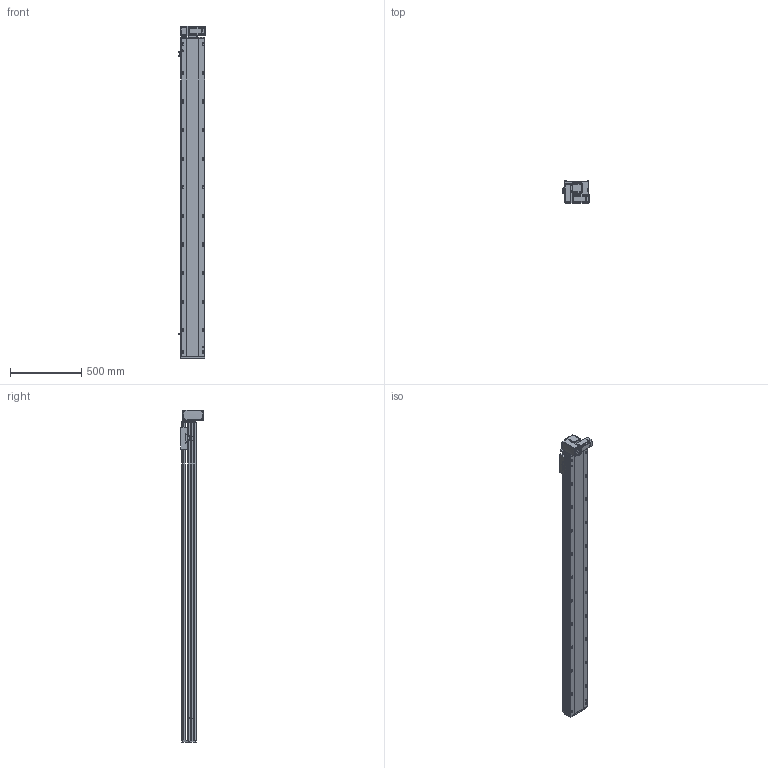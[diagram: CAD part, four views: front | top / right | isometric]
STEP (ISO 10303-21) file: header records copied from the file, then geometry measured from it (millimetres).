
FILE_DESCRIPTION (( 'STEP AP214' ), '1' );
FILE_NAME ('RTB17S-XX-1950-LM-M40-C4.STEP', '2025-12-11T06:32:09', ( '' ), ( '' ), 'SwSTEP 2.0', 'SolidWorks 2018', '' );
FILE_SCHEMA (( 'AUTOMOTIVE_DESIGN' ));
Length unit declared in the file: millimetre
Products named in the file (14): OMRON EE-SX672 传感器^RTB17S-XX-XX-LM-M40-C4; RTB17S-XX-1950-LM-M40-C4; RTB17S-L-007奻裔^RTB17S-XX-XX-LM-M40-C4; RTB14-L-018P^RTB17S-LM-々湍釱蚾饜-400W_RTB17S-XX-XX-LM-M40-C4; RTB17-R-011菁釱^RTB17S-XX-XX-LM-M40-C4; RTB17S-L-001耜醱啣^RTB17S-XX-XX-LM-M40-C4; RTB17S-L-004佪裝蹟譫蟀諉釱^RTB17S-XX-XX-LM-M40-C4; RTH13-BL-012覜茼え俋离^RTB17S-XX-XX-LM-M40-C4; RTB14-L-008-M20--萇儂啣^RTB17S-LM-々湍釱蚾饜-400W_RTB17S-XX-XX-LM-M40-C4; RTB14-L-005P--轴承塑胶压盖^RTB17S-LM-皮带座装配-400W_RTB17S-XX-XX-LM-M40-C4; RTB17S-LM-々湍釱蚾饜-400W^RTB17S-XX-XX-LM-M40-C4; 400W侜督萇儂^RTB17S-XX-XX-LM-M40-C4; RTB14-L-017P^RTB17S-LM-々湍釱蚾饜-400W_RTB17S-XX-XX-LM-M40-C4; RMP17S-L-014-T20--々湍釱^RTB17S-LM-々湍釱蚾饜-400W_RTB17S-XX-XX-LM-M40-C4
Assembly tree (16 placements, depth 3):
  RTB17S-XX-1950-LM-M40-C4
    RTB17-R-011菁釱^RTB17S-XX-XX-LM-M40-C4
    RTB17S-L-007奻裔^RTB17S-XX-XX-LM-M40-C4
    OMRON EE-SX672 传感器^RTB17S-XX-XX-LM-M40-C4  x3
    RTH13-BL-012覜茼え俋离^RTB17S-XX-XX-LM-M40-C4
    RTB17S-L-001耜醱啣^RTB17S-XX-XX-LM-M40-C4
    400W侜督萇儂^RTB17S-XX-XX-LM-M40-C4
    RTB17S-L-004佪裝蹟譫蟀諉釱^RTB17S-XX-XX-LM-M40-C4
    RTB17S-LM-々湍釱蚾饜-400W^RTB17S-XX-XX-LM-M40-C4
      RMP17S-L-014-T20--々湍釱^RTB17S-LM-々湍釱蚾饜-400W_RTB17S-XX-XX-LM-M40-C4
      RTB14-L-005P--轴承塑胶压盖^RTB17S-LM-皮带座装配-400W_RTB17S-XX-XX-LM-M40-C4
      RTB14-L-008-M20--萇儂啣^RTB17S-LM-々湍釱蚾饜-400W_RTB17S-XX-XX-LM-M40-C4
      RTB14-L-017P^RTB17S-LM-々湍釱蚾饜-400W_RTB17S-XX-XX-LM-M40-C4  x2
      RTB14-L-018P^RTB17S-LM-々湍釱蚾饜-400W_RTB17S-XX-XX-LM-M40-C4
Bounding box: 186 x 156.5 x 2322.5 mm (x, y, z)
Volume: 20121525.5 mm3; surface area: 2342891.7 mm2
Topology: 15 solids, 15 shells, 2285 faces, 6357 edges, 4149 vertices
Faces by surface type: plane 1078, cylinder 759, bspline 301, cone 139, torus 8
Entity records: 66473 total; most frequent: CARTESIAN_POINT 18762, ORIENTED_EDGE 9558, DIRECTION 8846, EDGE_CURVE 4779, VERTEX_POINT 3137, AXIS2_PLACEMENT_3D 3067, LINE 2712, VECTOR 2712
